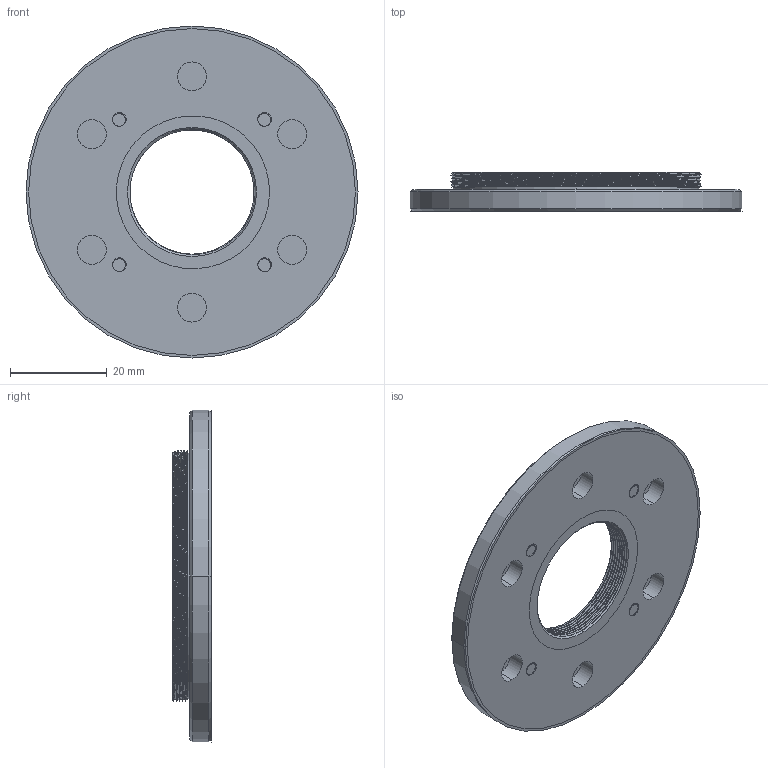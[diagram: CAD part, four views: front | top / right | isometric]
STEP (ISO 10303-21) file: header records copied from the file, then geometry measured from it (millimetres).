
FILE_DESCRIPTION((''),'2;1');
FILE_NAME('MA-OMD1','2024-03-30T10:53:45',('R&D'),(''),'CREO PARAMETRIC BY PTC INC, 2021063','CREO PARAMETRIC BY PTC INC, 2021063','');
FILE_SCHEMA(('CONFIG_CONTROL_DESIGN'));
Length unit declared in the file: millimetre
Products named in the file (1): MA-OMD1
Bounding box: 68.58 x 8 x 68.58 mm (x, y, z)
Volume: 14958.5 mm3; surface area: 12600.5 mm2
Topology: 1 solids, 6 shells, 190 faces, 519 edges, 342 vertices
Faces by surface type: cylinder 108, bspline 49, plane 18, cone 15
Entity records: 16370 total; most frequent: CARTESIAN_POINT 12028, ORIENTED_EDGE 1004, DIRECTION 671, EDGE_CURVE 519, VERTEX_POINT 342, AXIS2_PLACEMENT_3D 254, B_SPLINE_CURVE_WITH_KNOTS 244, EDGE_LOOP 217
